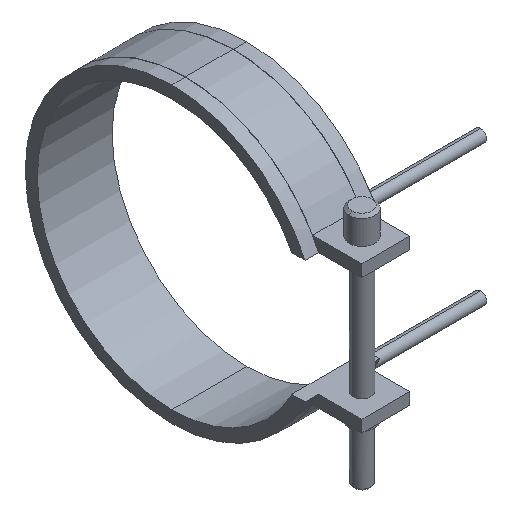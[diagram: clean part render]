
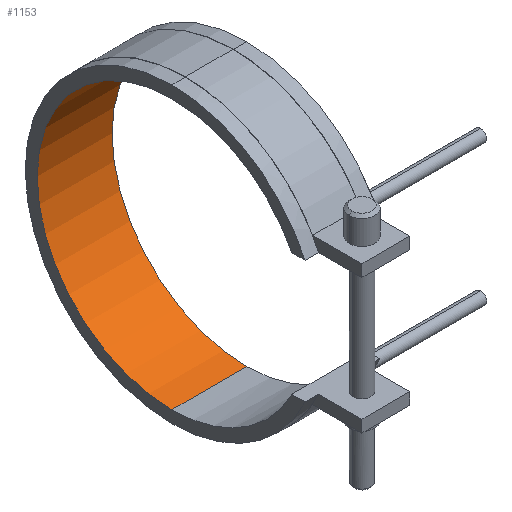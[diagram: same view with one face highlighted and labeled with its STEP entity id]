
A CAD part, isometric view. The second image highlights one B-rep face of the part: STEP entity #1153.
In plain terms, the highlighted cylindrical face has radius 45 mm (diameter 90 mm), a partial arc.
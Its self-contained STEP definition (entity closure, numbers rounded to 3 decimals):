
#834=CARTESIAN_POINT('Vertex',(-12.5,0.,-45.)) ;
#841=CARTESIAN_POINT('Vertex',(12.5,0.,-45.)) ;
#844=CARTESIAN_POINT('Line Origine',(12.5,0.,-45.)) ;
#862=CARTESIAN_POINT('Axis2P3D Location',(-12.5,0.,0.)) ;
#866=CARTESIAN_POINT('Vertex',(-12.5,0.,45.)) ;
#923=CARTESIAN_POINT('Vertex',(12.5,0.,45.)) ;
#933=CARTESIAN_POINT('Line Origine',(12.5,0.,45.)) ;
#1024=CARTESIAN_POINT('Axis2P3D Location',(12.5,0.,0.)) ;
#1142=CARTESIAN_POINT('Axis2P3D Location',(12.5,0.,0.)) ;
#845=DIRECTION('Vector Direction',(1.,0.,0.)) ;
#863=DIRECTION('Axis2P3D Direction',(1.,0.,0.)) ;
#934=DIRECTION('Vector Direction',(1.,0.,0.)) ;
#1025=DIRECTION('Axis2P3D Direction',(1.,0.,0.)) ;
#1143=DIRECTION('Axis2P3D Direction',(1.,0.,-0.)) ;
#1144=DIRECTION('Axis2P3D XDirection',(0.,0.,-1.)) ;
#864=AXIS2_PLACEMENT_3D('Circle Axis2P3D',#862,#863,$) ;
#1026=AXIS2_PLACEMENT_3D('Circle Axis2P3D',#1024,#1025,$) ;
#1145=AXIS2_PLACEMENT_3D('Cylinder Axis2P3D',#1142,#1143,#1144) ;
#1148=ORIENTED_EDGE('',*,*,#1028,.T.) ;
#1149=ORIENTED_EDGE('',*,*,#937,.T.) ;
#1150=ORIENTED_EDGE('',*,*,#868,.F.) ;
#1151=ORIENTED_EDGE('',*,*,#848,.T.) ;
#846=VECTOR('Line Direction',#845,1.) ;
#935=VECTOR('Line Direction',#934,1.) ;
#1153=ADVANCED_FACE('14090025',(#1152),#1146,.F.) ;
#865=CIRCLE('generated circle',#864,45.) ;
#1027=CIRCLE('generated circle',#1026,45.) ;
#1146=CYLINDRICAL_SURFACE('generated cylinder',#1145,45.) ;
#848=EDGE_CURVE('',#835,#842,#847,.T.) ;
#868=EDGE_CURVE('',#835,#867,#865,.T.) ;
#937=EDGE_CURVE('',#924,#867,#936,.F.) ;
#1028=EDGE_CURVE('',#842,#924,#1027,.T.) ;
#1147=EDGE_LOOP('',(#1148,#1149,#1150,#1151)) ;
#1152=FACE_OUTER_BOUND('',#1147,.T.) ;
#847=LINE('Line',#844,#846) ;
#936=LINE('Line',#933,#935) ;
#835=VERTEX_POINT('',#834) ;
#842=VERTEX_POINT('',#841) ;
#867=VERTEX_POINT('',#866) ;
#924=VERTEX_POINT('',#923) ;
